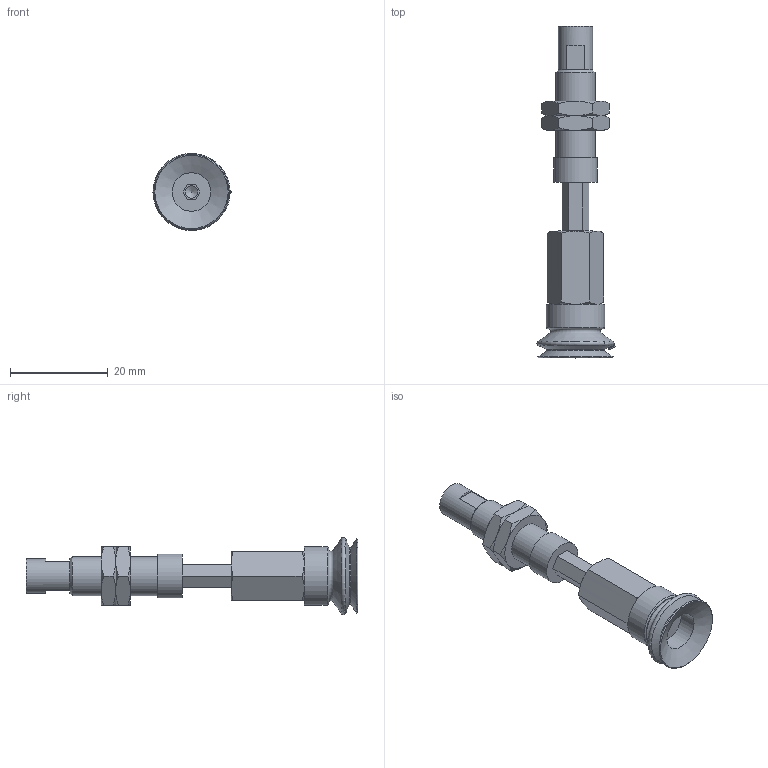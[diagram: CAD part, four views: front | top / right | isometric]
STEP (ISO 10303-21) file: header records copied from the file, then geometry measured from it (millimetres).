
FILE_DESCRIPTION(('STEP AP203'),'1');
FILE_NAME('.stp','2025-08-27T06:51:01',(' '),(' '),'Spatial InterOp 3D',' ',' ');
FILE_SCHEMA(('CONFIG_CONTROL_DESIGN'));
Length unit declared in the file: millimetre
Products named in the file (7): BNABPJTH-15-10-※; ADAPTER; NAPCTH-10-10-MBODY; Adapter-15-NAPJ; NAPJH-15-10-NUT; NAPJTH-15-10-FBODY; BPJG-15-※
Assembly tree (7 placements, depth 2):
  BNABPJTH-15-10-※
    ADAPTER
    NAPCTH-10-10-MBODY
    Adapter-15-NAPJ
    NAPJH-15-10-NUT  x2
    NAPJTH-15-10-FBODY
    BPJG-15-※
Bounding box: 15.99 x 68 x 15.78 mm (x, y, z)
Volume: 4388.2 mm3; surface area: 4818 mm2
Topology: 7 solids, 7 shells, 147 faces, 320 edges, 191 vertices
Faces by surface type: plane 62, cone 53, cylinder 13, torus 9, bspline 6, sphere 4
Full cylindrical faces by diameter (mm): 2.5 x1, 4.134 x2, 4.6 x1, 5 x1, 7 x1, 7.188 x2, 7.9 x1, 8 x2, 9 x1, 12 x1
Entity records: 3942 total; most frequent: CARTESIAN_POINT 1122, DIRECTION 514, ORIENTED_EDGE 458, EDGE_CURVE 229, AXIS2_PLACEMENT_3D 215, EDGE_LOOP 169, VERTEX_POINT 155, FACE_OUTER_BOUND 143
